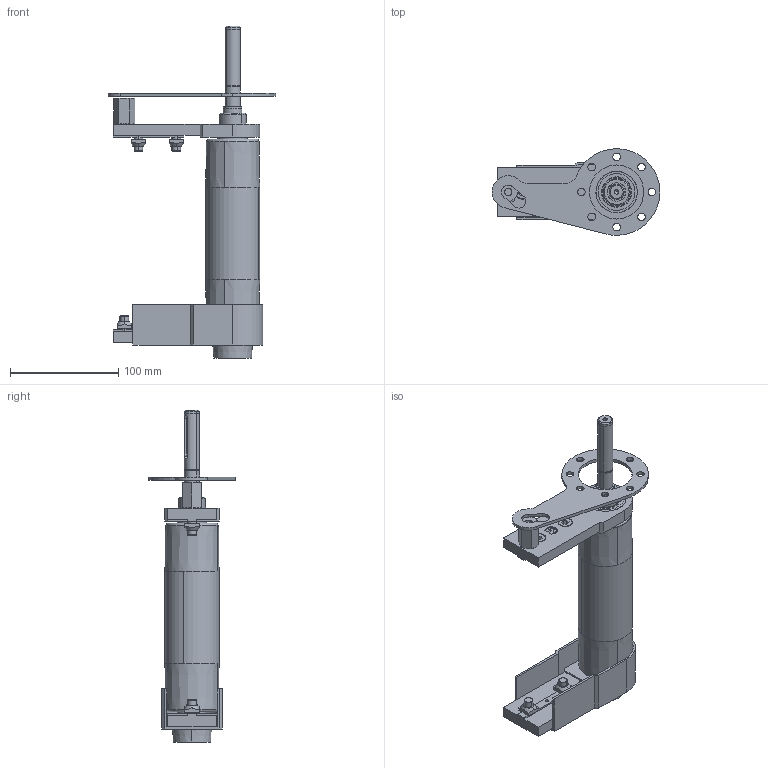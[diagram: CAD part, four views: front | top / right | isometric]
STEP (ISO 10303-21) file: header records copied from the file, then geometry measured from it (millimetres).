
FILE_DESCRIPTION (( 'STEP AP203' ), '1' );
FILE_NAME ('084.050.KDC.30.150.STEP', '2019-07-29T10:13:28', ( '' ), ( '' ), 'SwSTEP 2.0', 'SolidWorks 2018', '' );
FILE_SCHEMA (( 'CONFIG_CONTROL_DESIGN' ));
Length unit declared in the file: millimetre
Products named in the file (14): 084.815.102_Default<A macchina>; 084.302.000 DADI ALUSIC 13x13_084.302.004; 084.810.001; 084.802.017_084.802.017; 084.301.000 VITI ALUSIC_084.301.003; 084.807.005; 084.811.001; 084.802.027; 084.807.004_084.807.004; 084.050.KDC.30.150; VITI TSEI UNI 5933_M4x12 UNI 5933; 084.802.023_084.802.023; 084.807.013_084.807.003; 084.811.004
Assembly tree (22 placements, depth 2):
  084.050.KDC.30.150
    084.807.004_084.807.004
    084.807.013_084.807.003
    084.802.017_084.802.017  x2
    084.811.004
    084.815.102_Default<A macchina>
    084.810.001  x2
    VITI TSEI UNI 5933_M4x12 UNI 5933  x2
    084.811.001
    084.802.027
    084.807.005
    084.802.023_084.802.023
    084.301.000 VITI ALUSIC_084.301.003  x4
    084.302.000 DADI ALUSIC 13x13_084.302.004  x4
Bounding box: 154.99 x 80 x 306.5 mm (x, y, z)
Volume: 357991.8 mm3; surface area: 217395.3 mm2
Topology: 24 solids, 26 shells, 775 faces, 1938 edges, 1256 vertices
Faces by surface type: plane 324, cylinder 241, cone 78, torus 70, bspline 54, sphere 8
Entity records: 19753 total; most frequent: CARTESIAN_POINT 4136, DIRECTION 2921, ORIENTED_EDGE 2872, EDGE_CURVE 1436, AXIS2_PLACEMENT_3D 1109, VERTEX_POINT 936, LINE 703, VECTOR 703
